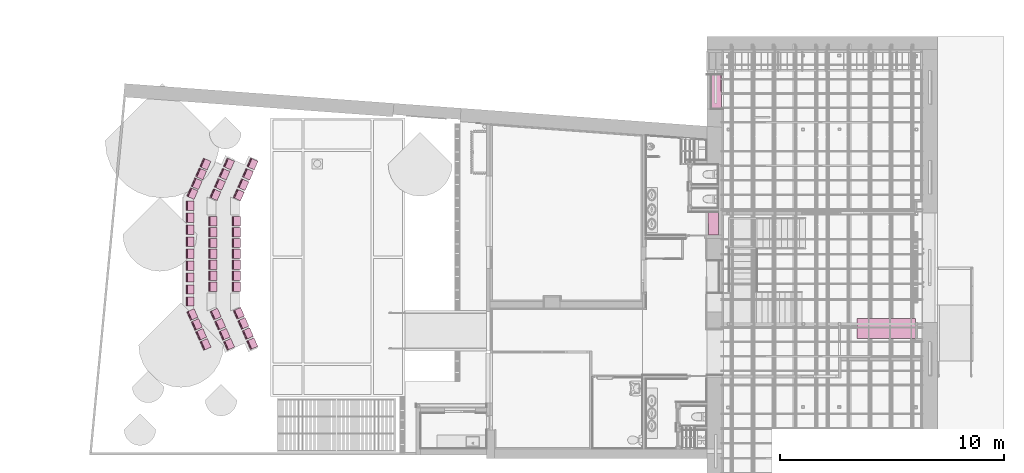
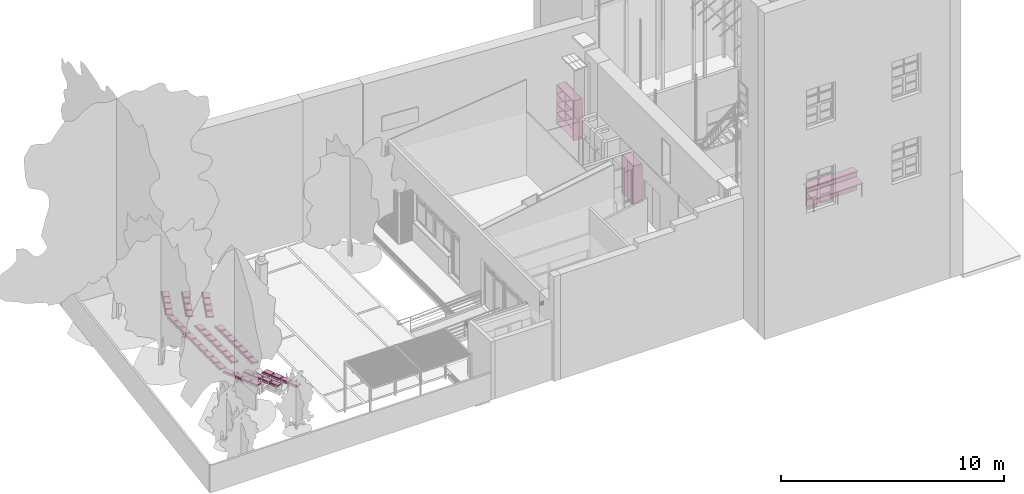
# One storey, part 71 of 75: 50 furnishings.
"""IFC2X3 building model written with IfcOpenShell, lengths in metres."""

from ifc_helpers import new_model, entity, si_unit, converted_unit, derived_unit, direction, frame, frame_2d, origin, origin_2d_with_axis, place, context, subcontext, project, spatial, polyline, rectangle, outline, extrude, source, transform, mapped, material, material_list, type_object, type_shapes, element, save


model = new_model("IFC2X3")

# Units and contexts
model_context = context("Model", 3, precision=1e-05, world=origin(), true_north=direction((6.12303176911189e-17, 1.0)))
body_context = subcontext(model_context, "Body", "Model", "MODEL_VIEW")
ifc_project = project(units=[si_unit("LENGTHUNIT", "METRE"), si_unit("AREAUNIT", "SQUARE_METRE"), si_unit("VOLUMEUNIT", "CUBIC_METRE"), converted_unit("PLANEANGLEUNIT", "DEGREE", entity("IfcRatioMeasure", 0.0174532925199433), si_unit("PLANEANGLEUNIT", "RADIAN"), dimensions=[0, 0, 0, 0, 0, 0, 0]), si_unit("MASSUNIT", "GRAM", prefix="KILO"), derived_unit("MASSDENSITYUNIT", [(si_unit("MASSUNIT", "GRAM", prefix="KILO"), 1), (si_unit("LENGTHUNIT", "METRE"), -3)]), derived_unit("MOMENTOFINERTIAUNIT", [(si_unit("LENGTHUNIT", "METRE"), 4)]), si_unit("TIMEUNIT", "SECOND"), si_unit("FREQUENCYUNIT", "HERTZ"), si_unit("THERMODYNAMICTEMPERATUREUNIT", "DEGREE_CELSIUS"), derived_unit("THERMALTRANSMITTANCEUNIT", [(si_unit("MASSUNIT", "GRAM", prefix="KILO"), 1), (si_unit("THERMODYNAMICTEMPERATUREUNIT", "KELVIN"), -1), (si_unit("TIMEUNIT", "SECOND"), -3)]), derived_unit("VOLUMETRICFLOWRATEUNIT", [(si_unit("LENGTHUNIT", "METRE"), 3), (si_unit("TIMEUNIT", "SECOND"), -1)]), si_unit("ELECTRICCURRENTUNIT", "AMPERE"), si_unit("ELECTRICVOLTAGEUNIT", "VOLT"), si_unit("POWERUNIT", "WATT"), si_unit("FORCEUNIT", "NEWTON", prefix="KILO"), si_unit("ILLUMINANCEUNIT", "LUX"), si_unit("LUMINOUSFLUXUNIT", "LUMEN"), si_unit("LUMINOUSINTENSITYUNIT", "CANDELA"), derived_unit("USERDEFINED", [(si_unit("MASSUNIT", "GRAM", prefix="KILO"), -1), (si_unit("LENGTHUNIT", "METRE"), -2), (si_unit("TIMEUNIT", "SECOND"), 3), (si_unit("LUMINOUSFLUXUNIT", "LUMEN"), 1)]), derived_unit("LINEARVELOCITYUNIT", [(si_unit("LENGTHUNIT", "METRE"), 1), (si_unit("TIMEUNIT", "SECOND"), -1)]), si_unit("PRESSUREUNIT", "PASCAL"), derived_unit("USERDEFINED", [(si_unit("LENGTHUNIT", "METRE"), -2), (si_unit("MASSUNIT", "GRAM", prefix="KILO"), 1), (si_unit("TIMEUNIT", "SECOND"), -2)]), derived_unit("LINEARFORCEUNIT", [(si_unit("MASSUNIT", "GRAM", prefix="KILO"), 1), (si_unit("LENGTHUNIT", "METRE"), 1), (si_unit("TIMEUNIT", "SECOND"), -2), (si_unit("LENGTHUNIT", "METRE"), -1)]), derived_unit("PLANARFORCEUNIT", [(si_unit("MASSUNIT", "GRAM", prefix="KILO"), 1), (si_unit("LENGTHUNIT", "METRE"), 1), (si_unit("TIMEUNIT", "SECOND"), -2), (si_unit("LENGTHUNIT", "METRE"), -2)])], contexts=[model_context])

# Site, building, storey
site_placement = place(None, origin())
site = spatial("IfcSite", under=ifc_project, at=site_placement, Name="Superficie", CompositionType="ELEMENT")
building_placement = place(site_placement, origin())
building = spatial("IfcBuilding", under=site, at=building_placement, Name="Telegestiones", CompositionType="ELEMENT")
storey_placement = place(building_placement, origin())
storey = spatial("IfcBuildingStorey", under=building, at=storey_placement, Name="Nivel 0_NPT", CompositionType="ELEMENT", Elevation=0.0)

# Furnishings
ifc_material_1 = material(Name="Caoba")
ifc_material_2 = material(Name="<Unnamed>")
ifc_material_3 = material(Name="Acero")
ifc_material_list_1 = material_list([ifc_material_1, ifc_material_1, ifc_material_1, ifc_material_2, ifc_material_2, ifc_material_3, ifc_material_3, ifc_material_1])
ifc_material_list_2 = material_list([ifc_material_1, ifc_material_1, ifc_material_1, ifc_material_2, ifc_material_2, ifc_material_3, ifc_material_3, ifc_material_1])
furniture_type_1 = type_object("IfcFurnitureType", Name="ARQ-MB-IN-Mad-Me:ARQ-MB-IN-152x220-Mad-Me1", material=ifc_material_list_2)
shared_shape_1 = source(origin(), body_context, "Body", "SweptSolid", [
    extrude(outline(polyline([(-0.896333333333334, 0.00899999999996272), (-0.896333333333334, -0.0089999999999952), (-0.397, -0.00899999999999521), (-0.397, -0.741999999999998), (-0.379, -0.741999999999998), (-0.379, -0.00899999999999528), (0.120333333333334, -0.00899999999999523), (0.120333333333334, -0.741999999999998), (0.138333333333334, -0.741999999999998), (0.138333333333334, -0.0089999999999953), (0.637666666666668, -0.00899999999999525), (0.637666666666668, -0.741999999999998), (0.655666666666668, -0.741999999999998), (0.655666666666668, 0.74200000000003), (0.637666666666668, 0.74200000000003), (0.637666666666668, 0.00899999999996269), (0.138333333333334, 0.00899999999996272), (0.138333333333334, 0.74200000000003), (0.120333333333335, 0.74200000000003), (0.120333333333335, 0.00899999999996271), (-0.379, 0.00899999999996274), (-0.379, 0.74200000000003), (-0.397000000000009, 0.74200000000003), (-0.397000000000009, 0.00899999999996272), (-0.896333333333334, 0.00899999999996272)])), frame((0.0447003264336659, -0.339999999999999, 1.28566666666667), z_axis=(0.0, -1.0, 0.0), x_axis=(0.0, 0.0, -1.0)), (0.0, 0.0, -1.0), 0.44),
    extrude(outline(polyline([(-1.6295, -0.760000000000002), (0.5705, -0.760000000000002), (0.5705, -0.742), (0.4885, -0.742), (0.4885, 0.742000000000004), (0.5705, 0.742000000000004), (0.5705, 0.759999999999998), (-1.6295, 0.759999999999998), (-1.6295, -0.760000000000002)]), holes=[polyline([(0.4705, -0.742), (-1.61149999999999, -0.742), (-1.61149999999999, 0.742000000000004), (0.4705, 0.742000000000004), (0.4705, -0.742)])]), frame((0.0447003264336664, -0.339999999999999, 0.5705), z_axis=(0.0, 1.0, 0.0), x_axis=(0.0, 0.0, -1.0)), (0.0, 0.0, 1.0), 0.44),
    extrude(rectangle(XDim=0.016, YDim=0.741999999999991, at=frame_2d((3.38271077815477e-17, -5.55111512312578e-17), x_axis=(1.0, 0.0))), frame((0.415700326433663, -0.370000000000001, 0.0), z_axis=(0.0, 0.0, 1.0), x_axis=(0.0, 1.0, 0.0)), (0.0, 0.0, 1.0), 2.2),
    extrude(outline(polyline([(-0.00949999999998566, -0.0100000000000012), (0.00849999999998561, -0.0100000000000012), (0.00849999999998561, -0.00800000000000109), (-0.00749999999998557, -0.00800000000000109), (-0.00749999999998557, 0.00800000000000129), (0.00849999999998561, 0.00800000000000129), (0.00849999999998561, 0.0100000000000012), (-0.00949999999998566, 0.0100000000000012), (-0.00949999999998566, -0.0100000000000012)])), frame((0.795200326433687, -0.369999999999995, 0.0), z_axis=(0.0, 0.0, 1.0), x_axis=(-1.0, 0.0, 0.0)), (0.0, 0.0, 1.0), 2.2),
    extrude(outline(polyline([(-0.00949999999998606, -0.01), (0.00849999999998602, -0.01), (0.00849999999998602, -0.00800000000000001), (-0.00749999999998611, -0.00800000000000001), (-0.00749999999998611, 0.00800000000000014), (0.00849999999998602, 0.00800000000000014), (0.00849999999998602, 0.0100000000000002), (-0.00949999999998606, 0.0100000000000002), (-0.00949999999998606, -0.01)])), frame((0.795200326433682, -0.349999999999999, 0.0), z_axis=(0.0, 0.0, 1.0), x_axis=(-1.0, 0.0, 0.0)), (0.0, 0.0, 1.0), 2.2),
    extrude(outline(polyline([(-0.00949999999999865, -0.00999999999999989), (0.00849999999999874, -0.00999999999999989), (0.00849999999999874, -0.00799999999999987), (-0.0074999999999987, -0.00799999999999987), (-0.0074999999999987, 0.00799999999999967), (0.00849999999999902, 0.00799999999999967), (0.00849999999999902, 0.00999999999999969), (-0.00949999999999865, 0.00999999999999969), (-0.00949999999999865, -0.00999999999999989)])), frame((-0.705799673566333, -0.369999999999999, 0.0)), (0.0, 0.0, 1.0), 2.2),
    extrude(outline(polyline([(-0.00849999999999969, -0.0100000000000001), (0.00949999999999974, -0.0100000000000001), (0.00949999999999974, 0.0100000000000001), (-0.00849999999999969, 0.0100000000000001), (-0.00849999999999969, 0.00800000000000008), (0.00749999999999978, 0.00800000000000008), (0.00749999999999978, -0.00800000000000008), (-0.00849999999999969, -0.00800000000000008), (-0.00849999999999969, -0.0100000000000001)])), frame((-0.705799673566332, -0.349999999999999, 0.0), z_axis=(0.0, 0.0, 1.0), x_axis=(-1.0, 0.0, 0.0)), (0.0, 0.0, 1.0), 2.2),
    extrude(rectangle(XDim=0.016, YDim=0.742, at=frame_2d((3.38271077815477e-17, 0.0), x_axis=(1.0, 0.0))), frame((-0.326299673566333, -0.349999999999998, 0.0), z_axis=(0.0, 0.0, 1.0), x_axis=(0.0, 1.0, 0.0)), (0.0, 0.0, 1.0), 2.2),
])
type_shapes(furniture_type_1, [shared_shape_1])
furnishing_1_placement = place(storey_placement, frame((5.64928977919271, 11.8239069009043, 0.0), z_axis=(0.0, 0.0, 1.0), x_axis=(0.0, 1.0, 0.0)))
element("IfcFurnishingElement", 1, at=furnishing_1_placement, inside=storey, type_object=furniture_type_1, material=ifc_material_list_1, Name="ARQ-MB-IN-Mad-Me:ARQ-MB-IN-152x220-Mad-Me1", ObjectType="ARQ-MB-IN-Mad-Me:ARQ-MB-IN-152x220-Mad-Me1", context=body_context, shape_type="MappedRepresentation", body=[
    mapped(shared_shape_1, transform((0.0, 0.0, 0.0), scale=1.0)),
])
ifc_material_list_3 = material_list([ifc_material_1, ifc_material_1, ifc_material_1, ifc_material_2, ifc_material_2, ifc_material_3, ifc_material_3, ifc_material_1])
ifc_material_list_4 = material_list([ifc_material_1, ifc_material_1, ifc_material_1, ifc_material_2, ifc_material_2, ifc_material_3, ifc_material_3, ifc_material_1])
furniture_type_2 = type_object("IfcFurnitureType", Name="ARQ-MB-IN-Mad-Me3:ARQ-MB-IN-Mad-Me", material=ifc_material_list_4)
shared_shape_2 = source(origin(), body_context, "Body", "SweptSolid", [
    extrude(outline(polyline([(-0.872476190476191, 0.105904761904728), (-0.872476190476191, 0.0879047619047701), (-0.406476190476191, 0.0879047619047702), (-0.40647619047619, -0.405095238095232), (-0.38847619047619, -0.405095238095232), (-0.388476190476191, 0.0879047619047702), (0.0775238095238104, 0.0879047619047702), (0.0775238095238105, -0.405095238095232), (0.0955238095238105, -0.405095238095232), (0.0955238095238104, 0.0879047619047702), (0.561523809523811, 0.0879047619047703), (0.561523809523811, -0.405095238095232), (0.579523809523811, -0.405095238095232), (0.579523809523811, 0.0879047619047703), (1.10952380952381, 0.0879047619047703), (1.10952380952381, 0.105904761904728), (0.0775238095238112, 0.105904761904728), (-0.388476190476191, 0.105904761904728), (-0.388476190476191, 0.598904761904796), (-0.406476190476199, 0.598904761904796), (-0.406476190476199, 0.105904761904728), (-0.872476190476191, 0.105904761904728)])), frame((-0.0522044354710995, -0.339999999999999, 1.20952380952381), z_axis=(0.0, -1.0, 0.0), x_axis=(0.0, 0.0, -1.0)), (0.0, 0.0, -1.0), 0.44),
    extrude(outline(polyline([(-1.5545, -0.52), (0.5455, -0.52), (0.5455, -0.502000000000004), (0.4635, -0.502000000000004), (0.4635, 0.502000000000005), (0.5455, 0.502000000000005), (0.5455, 0.519999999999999), (-1.5545, 0.519999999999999), (-1.5545, -0.52)]), holes=[polyline([(0.4455, -0.502000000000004), (-1.53649999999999, -0.502000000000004), (-1.53649999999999, 0.502000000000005), (0.4455, 0.502000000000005), (0.4455, -0.502000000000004)])]), frame((0.0447003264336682, -0.339999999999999, 0.5455), z_axis=(0.0, 1.0, 0.0), x_axis=(0.0, 0.0, -1.0)), (0.0, 0.0, 1.0), 0.44),
    extrude(rectangle(XDim=0.016, YDim=0.502000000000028, at=frame_2d((3.38271077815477e-17, 0.0), x_axis=(1.0, 0.0))), frame((0.295700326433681, -0.37, 0.0), z_axis=(0.0, 0.0, 1.0), x_axis=(0.0, 1.0, 0.0)), (0.0, 0.0, 1.0), 2.1),
    extrude(outline(polyline([(-0.00949999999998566, -0.0100000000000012), (0.00849999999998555, -0.0100000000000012), (0.00849999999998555, -0.00800000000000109), (-0.00749999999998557, -0.00800000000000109), (-0.00749999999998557, 0.00800000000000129), (0.00849999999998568, 0.00800000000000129), (0.00849999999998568, 0.0100000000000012), (-0.00949999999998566, 0.0100000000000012), (-0.00949999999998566, -0.0100000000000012)])), frame((0.555200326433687, -0.369999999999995, 0.0), z_axis=(0.0, 0.0, 1.0), x_axis=(-1.0, 0.0, 0.0)), (0.0, 0.0, 1.0), 2.1),
    extrude(outline(polyline([(-0.00949999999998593, -0.01), (0.00849999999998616, -0.01), (0.00849999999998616, -0.00800000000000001), (-0.00749999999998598, -0.00800000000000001), (-0.00749999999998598, 0.00800000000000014), (0.00849999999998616, 0.00800000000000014), (0.00849999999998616, 0.0100000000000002), (-0.00949999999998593, 0.0100000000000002), (-0.00949999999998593, -0.01)])), frame((0.555200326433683, -0.349999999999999, 0.0), z_axis=(0.0, 0.0, 1.0), x_axis=(-1.0, 0.0, 0.0)), (0.0, 0.0, 1.0), 2.1),
    extrude(outline(polyline([(-0.00949999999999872, -0.00999999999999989), (0.00849999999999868, -0.00999999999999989), (0.00849999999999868, -0.00799999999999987), (-0.00749999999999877, -0.00799999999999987), (-0.00749999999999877, 0.00799999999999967), (0.00849999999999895, 0.00799999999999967), (0.00849999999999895, 0.00999999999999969), (-0.00949999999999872, 0.00999999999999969), (-0.00949999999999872, -0.00999999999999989)])), frame((-0.465799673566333, -0.369999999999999, 0.0)), (0.0, 0.0, 1.0), 2.1),
    extrude(outline(polyline([(-0.00849999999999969, -0.0100000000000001), (0.00949999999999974, -0.0100000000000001), (0.00949999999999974, 0.0100000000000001), (-0.00849999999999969, 0.0100000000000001), (-0.00849999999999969, 0.00800000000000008), (0.00749999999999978, 0.00800000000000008), (0.00749999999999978, -0.00800000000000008), (-0.00849999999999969, -0.00800000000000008), (-0.00849999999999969, -0.0100000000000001)])), frame((-0.465799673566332, -0.349999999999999, 0.0), z_axis=(0.0, 0.0, 1.0), x_axis=(-1.0, 0.0, 0.0)), (0.0, 0.0, 1.0), 2.1),
    extrude(rectangle(XDim=0.016, YDim=0.502000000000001, at=frame_2d((3.38271077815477e-17, 0.0), x_axis=(1.0, 0.0))), frame((-0.206299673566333, -0.349999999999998, 0.0), z_axis=(0.0, 0.0, 1.0), x_axis=(0.0, 1.0, 0.0)), (0.0, 0.0, 1.0), 2.1),
])
type_shapes(furniture_type_2, [shared_shape_2])
furnishing_2_placement = place(storey_placement, frame((5.7642897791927, 6.02830755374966, 0.0), z_axis=(0.0, 0.0, 1.0), x_axis=(0.0, -1.0, 0.0)))
element("IfcFurnishingElement", 2, at=furnishing_2_placement, inside=storey, type_object=furniture_type_2, material=ifc_material_list_3, Name="ARQ-MB-IN-Mad-Me3:ARQ-MB-IN-Mad-Me", ObjectType="ARQ-MB-IN-Mad-Me3:ARQ-MB-IN-Mad-Me", context=body_context, shape_type="MappedRepresentation", body=[
    mapped(shared_shape_2, transform((0.0, 0.0, 0.0), scale=1.0)),
])
ifc_material_4 = material(Name="Placa de yeso laminado")
ifc_material_list_5 = material_list([ifc_material_3, ifc_material_3, ifc_material_3, ifc_material_4, ifc_material_3, ifc_material_3, ifc_material_3, ifc_material_3, ifc_material_3, ifc_material_3, ifc_material_3, ifc_material_3, ifc_material_3, ifc_material_1, ifc_material_1])
ifc_material_list_6 = material_list([ifc_material_3, ifc_material_3, ifc_material_3, ifc_material_4, ifc_material_3, ifc_material_3, ifc_material_3, ifc_material_3, ifc_material_3, ifc_material_3, ifc_material_3, ifc_material_3, ifc_material_3, ifc_material_1, ifc_material_1])
furniture_type_3 = type_object("IfcFurnitureType", Name="ARQ-MB-IN-YesoMad-Me6:ARQ-MB-IN-YesoMad-Me6", material=ifc_material_list_6)
shared_shape_3 = source(origin(), body_context, "Body", "SweptSolid", [
    extrude(rectangle(XDim=0.0499999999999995, YDim=0.195, at=frame_2d((0.0, -2.08166817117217e-17), x_axis=(1.0, 0.0))), frame((-1.20029967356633, -0.122499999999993, 1.025)), (0.0, 0.0, 1.0), 0.0499999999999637),
    extrude(rectangle(XDim=0.05, YDim=0.195, at=origin_2d_with_axis()), frame((1.28970032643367, -0.122500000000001, 1.025)), (0.0, 0.0, 1.0), 0.0499999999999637),
    extrude(rectangle(XDim=0.05, YDim=0.195000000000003, at=frame_2d((0.0, -6.59194920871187e-16), x_axis=(1.0, 0.0))), frame((0.0447003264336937, -0.1225, 1.025)), (0.0, 0.0, 1.0), 0.0499999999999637),
    extrude(outline(polyline([(-1.3, -0.05), (1.3, -0.05), (1.3, 0.05), (-1.3, 0.05), (-1.3, -0.05)]), holes=[polyline([(1.288, 0.038), (1.288, -0.0379999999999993), (-1.288, -0.0379999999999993), (-1.288, 0.038), (1.288, 0.038)])]), frame((0.044700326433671, -0.25, 0.0)), (0.0, 0.0, 1.0), 1.07499999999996),
    extrude(rectangle(XDim=0.05, YDim=0.555000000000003, at=frame_2d((0.0, 2.77555756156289e-17), x_axis=(1.0, 0.0))), frame((1.28970032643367, -0.547500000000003, 0.675), z_axis=(0.0, 0.0, 1.0), x_axis=(-1.0, 0.0, 0.0)), (0.0, 0.0, 1.0), 0.0499999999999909),
    extrude(rectangle(XDim=0.05, YDim=0.555000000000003, at=frame_2d((0.0, 5.55111512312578e-17), x_axis=(1.0, 0.0))), frame((-1.20029967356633, -0.547499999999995, 0.675), z_axis=(0.0, 0.0, 1.0), x_axis=(-1.0, 0.0, 0.0)), (0.0, 0.0, 1.0), 0.0499999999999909),
    extrude(rectangle(XDim=0.05, YDim=0.555000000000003, at=frame_2d((0.0, 6.93889390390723e-16), x_axis=(1.0, 0.0))), frame((0.0447003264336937, -0.547500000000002, 0.675), z_axis=(0.0, 0.0, 1.0), x_axis=(-1.0, 0.0, 0.0)), (0.0, 0.0, 1.0), 0.0499999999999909),
    extrude(outline(polyline([(-0.0250000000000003, -0.025), (0.0249999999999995, -0.025), (0.0250000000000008, 0.025), (-0.0250000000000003, 0.025), (-0.0250000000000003, -0.025)]), holes=[polyline([(-0.0200000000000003, -0.0200000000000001), (-0.0200000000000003, 0.0199999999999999), (0.0199999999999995, 0.0199999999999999), (0.0199999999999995, -0.0200000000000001), (-0.0200000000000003, -0.0200000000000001)])]), frame((1.28970032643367, -0.850000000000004, 0.0), z_axis=(0.0, 0.0, 1.0), x_axis=(-1.0, 0.0, 0.0)), (0.0, 0.0, 1.0), 0.724999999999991),
    extrude(outline(polyline([(-0.025, -0.0249999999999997), (0.025, -0.0249999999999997), (0.025, 0.0249999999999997), (-0.025, 0.0249999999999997), (-0.025, -0.0249999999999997)]), holes=[polyline([(-0.0200000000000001, -0.0199999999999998), (-0.0200000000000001, 0.0199999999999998), (0.0199999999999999, 0.0199999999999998), (0.0199999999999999, -0.0199999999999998), (-0.0200000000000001, -0.0199999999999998)])]), frame((-1.20029967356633, -0.850000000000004, 0.0), z_axis=(0.0, 0.0, 1.0), x_axis=(0.0, -1.0, 0.0)), (0.0, 0.0, 1.0), 0.724999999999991),
    extrude(outline(polyline([(-0.025, -0.0249999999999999), (0.025, -0.0249999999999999), (0.025, 0.0249999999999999), (-0.025, 0.0249999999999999), (-0.025, -0.0249999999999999)]), holes=[polyline([(-0.0200000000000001, -0.0199999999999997), (-0.0200000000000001, 0.02), (0.0199999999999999, 0.02), (0.0199999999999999, -0.0199999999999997), (-0.0200000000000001, -0.0199999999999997)])]), frame((0.0447003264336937, -0.850000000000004, 0.0), z_axis=(0.0, 0.0, 1.0), x_axis=(0.0, -1.0, 0.0)), (0.0, 0.0, 1.0), 0.724999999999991),
    extrude(outline(polyline([(-0.0249999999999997, -0.025), (0.025, -0.025), (0.025, 0.025), (-0.0249999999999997, 0.025), (-0.0249999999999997, -0.025)]), holes=[polyline([(-0.0199999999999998, -0.02), (-0.0199999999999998, 0.02), (0.0200000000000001, 0.02), (0.0200000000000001, -0.02), (-0.0199999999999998, -0.02)])]), frame((1.28970032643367, -0.245000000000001, 0.0), z_axis=(0.0, 0.0, 1.0), x_axis=(-1.0, 0.0, 0.0)), (0.0, 0.0, 1.0), 1.07499999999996),
    extrude(outline(polyline([(-0.025, -0.0249999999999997), (0.025, -0.0249999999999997), (0.025, 0.0249999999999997), (-0.025, 0.0249999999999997), (-0.025, -0.0249999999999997)]), holes=[polyline([(-0.02, -0.0199999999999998), (-0.02, 0.0199999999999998), (0.02, 0.0199999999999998), (0.02, -0.0199999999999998), (-0.02, -0.0199999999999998)])]), frame((-1.20029967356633, -0.244999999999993, 0.0), z_axis=(0.0, 0.0, 1.0), x_axis=(0.0, -1.0, 0.0)), (0.0, 0.0, 1.0), 1.07499999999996),
    extrude(outline(polyline([(-0.025, -0.0249999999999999), (0.025, -0.0249999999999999), (0.025, 0.0249999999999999), (-0.025, 0.0249999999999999), (-0.025, -0.0249999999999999)]), holes=[polyline([(-0.02, -0.0199999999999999), (-0.02, 0.0199999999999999), (0.02, 0.0199999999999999), (0.02, -0.0199999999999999), (-0.02, -0.0199999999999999)])]), frame((0.0447003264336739, -0.245000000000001, 0.0), z_axis=(0.0, 0.0, 1.0), x_axis=(0.0, -1.0, 0.0)), (0.0, 0.0, 1.0), 1.07499999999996),
    extrude(outline(polyline([(-0.141666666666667, -0.0350000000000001), (0.258333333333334, -0.0350000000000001), (0.258333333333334, -0.0099999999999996), (-0.116666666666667, -0.0100000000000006), (-0.116666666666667, 0.0449999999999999), (-0.141666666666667, 0.0449999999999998), (-0.141666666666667, -0.0350000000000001)])), frame((-1.25529967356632, -0.141666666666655, 1.06499999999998), z_axis=(1.0, 0.0, 0.0), x_axis=(0.0, -1.0, 0.0)), (0.0, 0.0, 1.0), 2.6),
    extrude(rectangle(XDim=2.6, YDim=0.600000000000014, at=origin_2d_with_axis()), frame((0.0447003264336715, -0.600000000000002, 0.725000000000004), z_axis=(0.0, 0.0, 1.0), x_axis=(-1.0, 0.0, 0.0)), (0.0, 0.0, 1.0), 0.025),
])
type_shapes(furniture_type_3, [shared_shape_3])
furnishing_3_placement = place(storey_placement, frame((13.3176544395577, 1.73459406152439, 0.0)))
element("IfcFurnishingElement", 3, at=furnishing_3_placement, inside=storey, type_object=furniture_type_3, material=ifc_material_list_5, Name="ARQ-MB-IN-YesoMad-Me6:ARQ-MB-IN-YesoMad-Me6", ObjectType="ARQ-MB-IN-YesoMad-Me6:ARQ-MB-IN-YesoMad-Me6", context=body_context, shape_type="MappedRepresentation", body=[
    mapped(shared_shape_3, transform((0.0, 0.0, 0.0), scale=1.0)),
])
ifc_material_5 = material(Name="Plástico, amarillo")
furniture_type_4 = type_object("IfcFurnitureType", Name="ARQ-MB-EX-Butaca:ARQ-MB-EX-Butaca", material=ifc_material_5)
shared_shape_4 = source(origin(), body_context, "Body", "SweptSolid", [
    extrude(outline(polyline([(0.0476849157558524, -0.229554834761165), (0.0976849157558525, -0.229554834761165), (0.137684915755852, -0.199554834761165), (0.000565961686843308, 0.00473145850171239), (-0.0057188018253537, 0.014887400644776), (-0.0108441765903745, 0.023918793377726), (-0.0148717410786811, 0.0319284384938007), (-0.0178630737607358, 0.0390191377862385), (-0.0198797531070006, 0.0452936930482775), (-0.0209833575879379, 0.050854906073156), (-0.0212354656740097, 0.0558055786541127), (-0.0206976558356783, 0.0602485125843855), (-0.0194315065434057, 0.0642865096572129), (-0.0174985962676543, 0.0680223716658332), (-0.0149605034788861, 0.0715589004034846), (-0.0118788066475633, 0.0749988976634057), (-0.00831508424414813, 0.0784451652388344), (-0.0348120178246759, 0.113774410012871), (-0.124315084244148, 0.0664451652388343), (0.0796849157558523, -0.205554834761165), (0.0476849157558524, -0.229554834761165)])), frame((-0.21, -0.212254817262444, 0.0595849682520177), z_axis=(1.0, 0.0, 0.0), x_axis=(0.0, 0.600000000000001, 0.799999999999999)), (0.0, 0.0, 1.0), 0.419999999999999),
])
type_shapes(furniture_type_4, [shared_shape_4])
for number, where, z_axis, x_axis in (
    (4, (-15.5200125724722, 3.16159089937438, 0.2), (0.0, 0.0, 1.0), (0.0, -1.0, 0.0)),
    (5, (-15.5200125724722, 6.08159089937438, 0.2), (0.0, 0.0, 1.0), (0.0, -1.0, 0.0)),
    (6, (-15.5200125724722, 3.64825756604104, 0.2), (0.0, 0.0, 1.0), (0.0, -1.0, 0.0)),
    (7, (-15.5200125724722, 4.13492423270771, 0.2), (0.0, 0.0, 1.0), (0.0, -1.0, 0.0)),
    (8, (-15.5200125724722, 4.62159089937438, 0.2), (0.0, 0.0, 1.0), (0.0, -1.0, 0.0)),
    (9, (-15.5200125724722, 5.10825756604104, 0.2), (0.0, 0.0, 1.0), (0.0, -1.0, 0.0)),
    (10, (-15.5200125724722, 5.59492423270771, 0.2), (0.0, 0.0, 1.0), (0.0, -1.0, 0.0)),
    (11, (-16.5700125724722, 3.16159089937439, 0.600000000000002), (0.0, 0.0, 1.0), (0.0, -1.0, 0.0)),
    (12, (-17.5816248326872, 6.77938875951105, 1.0), (0.0, 0.0, 1.0), (0.0, -1.0, 0.0)),
    (13, (-17.4967538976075, 1.97469738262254, 1.0), (0.0, 0.0, 1.0), (0.404147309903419, -0.914693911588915, 0.0)),
    (14, (-17.4967538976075, 7.25889977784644, 1.0), (0.0, 0.0, 1.0), (-0.404147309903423, -0.914693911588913, 0.0)),
    (15, (-16.4685706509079, 7.20952260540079, 0.600000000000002), (0.0, 0.0, 1.0), (-0.404147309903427, -0.914693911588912, 0.0)),
    (16, (-16.455384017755, 1.99422966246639, 0.600000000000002), (0.0, 0.0, 1.0), (0.404147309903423, -0.914693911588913, 0.0)),
    (17, (-15.4241584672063, 7.19687587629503, 0.200000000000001), (0.0, 0.0, 1.0), (-0.404147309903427, -0.914693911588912, 0.0)),
    (18, (-16.5700125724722, 6.08159089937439, 0.600000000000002), (0.0, 0.0, 1.0), (0.0, -1.0, 0.0)),
    (19, (-16.5700125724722, 3.64825756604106, 0.600000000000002), (0.0, 0.0, 1.0), (0.0, -1.0, 0.0)),
    (20, (-16.5700125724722, 4.13492423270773, 0.600000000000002), (0.0, 0.0, 1.0), (0.0, -1.0, 0.0)),
    (21, (-16.5700125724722, 4.62159089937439, 0.600000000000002), (0.0, 0.0, 1.0), (0.0, -1.0, 0.0)),
    (22, (-16.5700125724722, 5.10825756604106, 0.600000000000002), (0.0, 0.0, 1.0), (0.0, -1.0, 0.0)),
    (23, (-16.5700125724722, 5.59492423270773, 0.600000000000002), (0.0, 0.0, 1.0), (0.0, -1.0, 0.0)),
    (24, (-17.5816248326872, 2.49602597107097, 1.0), (0.0, 0.0, 1.0), (0.0, -1.0, 0.0)),
    (25, (-17.5816248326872, 6.24396841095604, 1.0), (0.0, 0.0, 1.0), (0.0, -1.0, 0.0)),
    (26, (-17.5816248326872, 5.70854806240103, 1.0), (0.0, 0.0, 1.0), (0.0, -1.0, 0.0)),
    (27, (-17.5816248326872, 5.17312771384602, 1.0), (0.0, 0.0, 1.0), (0.0, -1.0, 0.0)),
    (28, (-17.5816248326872, 4.63770736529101, 1.0), (0.0, 0.0, 1.0), (0.0, -1.0, 0.0)),
    (29, (-17.5816248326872, 4.102287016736, 1.0), (0.0, 0.0, 1.0), (0.0, -1.0, 0.0)),
    (30, (-17.5816248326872, 3.56686666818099, 1.0), (0.0, 0.0, 1.0), (0.0, -1.0, 0.0)),
    (31, (-17.5816248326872, 3.03144631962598, 1.0), (0.0, 0.0, 1.0), (0.0, -1.0, 0.0)),
    (32, (-16.9066871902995, 0.639217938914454, 1.0), (0.0, 0.0, 1.0), (0.404147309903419, -0.914693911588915, 0.0)),
    (33, (-17.3000649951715, 1.52953756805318, 1.0), (0.0, 0.0, 1.0), (0.404147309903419, -0.914693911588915, 0.0)),
    (34, (-17.1033760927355, 1.08437775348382, 1.0), (0.0, 0.0, 1.0), (0.404147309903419, -0.914693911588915, 0.0)),
    (35, (-15.8572459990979, 0.640482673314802, 0.600000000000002), (0.0, 0.0, 1.0), (0.404147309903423, -0.914693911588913, 0.0)),
    (36, (-16.2560046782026, 1.54298066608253, 0.600000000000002), (0.0, 0.0, 1.0), (0.404147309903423, -0.914693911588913, 0.0)),
    (37, (-16.0566253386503, 1.09173166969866, 0.600000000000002), (0.0, 0.0, 1.0), (0.404147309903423, -0.914693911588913, 0.0)),
    (38, (-15.4197821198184, 2.02681643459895, 0.200000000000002), (0.0, 0.0, 1.0), (0.404147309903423, -0.914693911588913, 0.0)),
    (39, (-14.8216441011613, 0.673069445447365, 0.200000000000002), (0.0, 0.0, 1.0), (0.404147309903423, -0.914693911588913, 0.0)),
    (40, (-15.220402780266, 1.57556743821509, 0.200000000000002), (0.0, 0.0, 1.0), (0.404147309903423, -0.914693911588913, 0.0)),
    (41, (-15.0210234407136, 1.12431844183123, 0.200000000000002), (0.0, 0.0, 1.0), (0.404147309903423, -0.914693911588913, 0.0)),
    (42, (-16.9147817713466, 8.57605901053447, 1.0), (0.0, 0.0, 1.0), (-0.404147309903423, -0.914693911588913, 0.0)),
    (43, (-17.3027631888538, 7.69795285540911, 1.0), (0.0, 0.0, 1.0), (-0.404147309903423, -0.914693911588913, 0.0)),
    (44, (-17.1087724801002, 8.13700593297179, 1.0), (0.0, 0.0, 1.0), (-0.404147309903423, -0.914693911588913, 0.0)),
    (45, (-15.8623496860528, 8.58156347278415, 0.600000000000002), (0.0, 0.0, 1.0), (-0.404147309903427, -0.914693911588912, 0.0)),
    (46, (-16.2664969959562, 7.66686956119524, 0.600000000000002), (0.0, 0.0, 1.0), (-0.404147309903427, -0.914693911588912, 0.0)),
    (47, (-16.0644233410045, 8.1242165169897, 0.600000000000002), (0.0, 0.0, 1.0), (-0.404147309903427, -0.914693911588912, 0.0)),
    (48, (-14.8118752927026, 8.58263715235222, 0.200000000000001), (0.0, 0.0, 1.0), (-0.404147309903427, -0.914693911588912, 0.0)),
    (49, (-15.2200640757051, 7.65879630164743, 0.200000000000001), (0.0, 0.0, 1.0), (-0.404147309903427, -0.914693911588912, 0.0)),
    (50, (-15.0159696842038, 8.12071672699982, 0.200000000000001), (0.0, 0.0, 1.0), (-0.404147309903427, -0.914693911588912, 0.0)),
):
    element("IfcFurnishingElement", number, at=place(storey_placement, frame(where, z_axis=z_axis, x_axis=x_axis)), inside=storey, type_object=furniture_type_4, material=ifc_material_5, Name="ARQ-MB-EX-Butaca:ARQ-MB-EX-Butaca", ObjectType="ARQ-MB-EX-Butaca:ARQ-MB-EX-Butaca", context=body_context, shape_type="MappedRepresentation", body=[
        mapped(shared_shape_4, transform((0.0, 0.0, 0.0), scale=1.0)),
    ])

save(model, "model.ifc")
